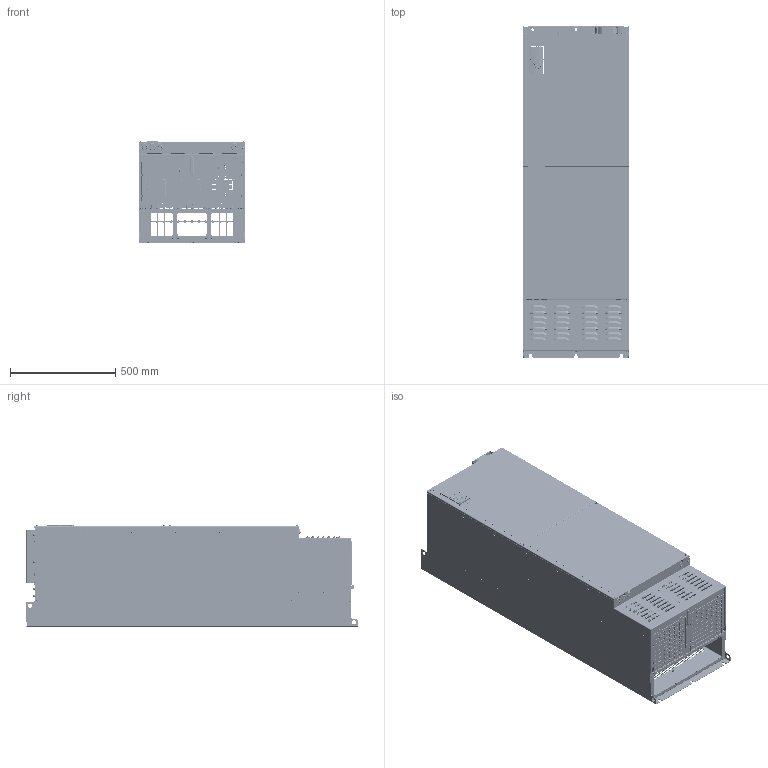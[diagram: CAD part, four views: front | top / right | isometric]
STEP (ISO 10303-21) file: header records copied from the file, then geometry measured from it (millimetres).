
FILE_DESCRIPTION((''),'2;1');
FILE_NAME('SHELL_E3H_ASM','2017-01-19T',('usdd0647'),('Danfoss Power Electronics'),'CREO PARAMETRIC BY PTC INC, 2015480','CREO PARAMETRIC BY PTC INC, 2015480','');
FILE_SCHEMA(('CONFIG_CONTROL_DESIGN','GEOMETRIC_VALIDATION_PROPERTIES_MIM'));
Products named in the file (124): 177G8945; FH-M6-15-ZI; SS-M5-2-ZI; S-M6-2-ZI; FH-M5-12-ZI; TPS-5MM-12; 177G8945_ASM; 177G9017; 177G9017_ASM; 177G8997; 177G8997_ASM; 26513; 177G9156; FH-M5-18-ZI; 177G9156_ASM; 177G4513; 175A5393; 26514; P4001_E1E3_ENCL_BACKCHANNEL_ASM; 177G8961; FH-M8-20-ZI; HFH-M10-25-ZI; 177G8961_ASM; 177G8968_AF0; 177G8968_AF3_ASM; 177G8967_AF0; 177G8967_AF3_ASM; 177G8975_AF4; 177G8975_AF2_ASM; 681X9143; 177G9001_AF6; 177G9001_AF3_ASM; 177G8993; SP-M5-2; 177G8993_ASM; 177G9204; 177G9204_ASM; 177G9235; 177G9235_ASM; 26516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
Assembly tree (454 placements, depth 6):
  SHELL_E3H_ASM
    P4001_E1E3_ASM
      P4001_E1E3_ENCL_BACKCHANNEL_ASM
        177G8945_ASM
          177G8945
          FH-M6-15-ZI  x4
          SS-M5-2-ZI  x28
          S-M6-2-ZI  x12
          FH-M5-12-ZI  x19
          TPS-5MM-12  x6
        177G9017_ASM  x2
          177G9017
        177G8997_ASM  x2
          177G8997
          SS-M5-2-ZI
        26513  x19
        177G9156_ASM
          177G9156
          FH-M5-18-ZI  x4
        177G4513  x4
        175A5393
        26514  x4
      P4001_E1E3_ENCL_MIDPLATE_ASM
        177G8961_ASM
          177G8961
          FH-M8-20-ZI  x16
          FH-M5-12-ZI  x20
          HFH-M10-25-ZI  x4
        177G8968_AF3_ASM
          177G8968_AF0
        177G8967_AF3_ASM
          177G8967_AF0
        177G8975_AF2_ASM
          177G8975_AF4
        681X9143  x17
        177G9001_AF3_ASM
          177G9001_AF6
        177G8993_ASM
          177G8993
          SP-M5-2  x2
        26513  x6
        177G9204_ASM
          177G9204
          FH-M5-12-ZI
          SS-M5-2-ZI  x3
        177G9235_ASM
          177G9235
        26516  x4
        26515  x4
        177A0167_ASM
          177A0167
        177A0168_ASM
          177A0168
      177G9202_ASM  x6
        177G9202
      177G9107_ASM  x2
        177G9107
        S-M8-2-ZI
      26524  x4
      177A0169_ASM
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Bounding box: 507.8 x 1577.6 x 483.14 mm (x, y, z)
Volume: 9692459.9 mm3; surface area: 10301786.5 mm2
Topology: 422 solids, 540 shells, 19937 faces, 52732 edges, 34339 vertices
Faces by surface type: plane 11512, cylinder 6233, cone 836, bspline 610, torus 520, revolution 152, sphere 52, extrusion 22
Entity records: 542763 total; most frequent: CARTESIAN_POINT 106523, ORIENTED_EDGE 69676, DIRECTION 69459, EDGE_CURVE 35321, PRESENTATION_STYLE_ASSIGNMENT 24095, VECTOR 23625, LINE 23603, VERTEX_POINT 22931
